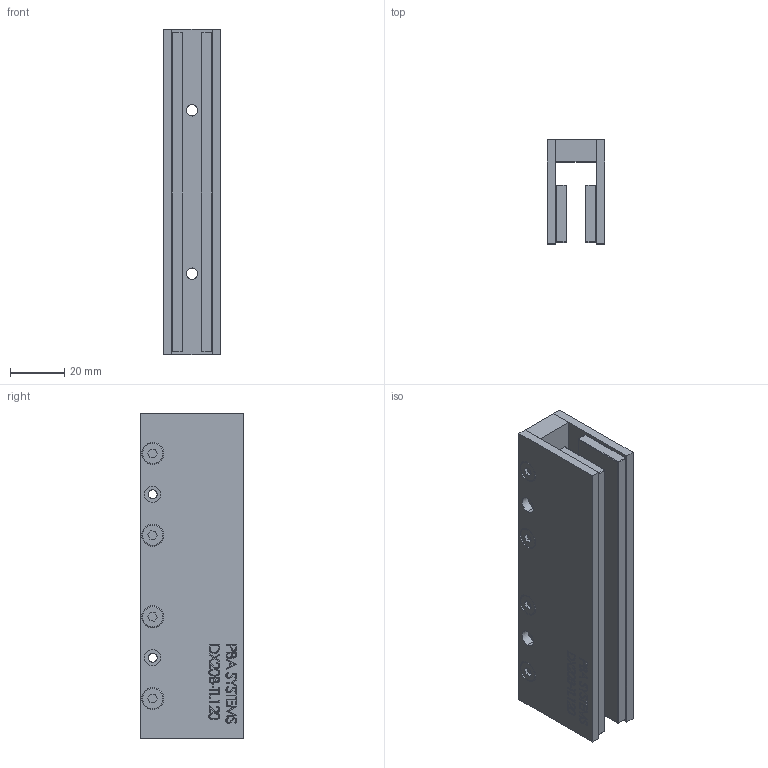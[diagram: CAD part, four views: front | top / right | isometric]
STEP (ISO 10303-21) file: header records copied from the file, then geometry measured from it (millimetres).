
FILE_DESCRIPTION (( 'STEP AP214' ), '1' );
FILE_NAME ('DX20B-TL120.STEP', '2016-05-11T08:34:49', ( '' ), ( '' ), 'SwSTEP 2.0', 'SolidWorks 2015', '' );
FILE_SCHEMA (( 'AUTOMOTIVE_DESIGN' ));
Length unit declared in the file: millimetre
Products named in the file (5): DX20B-0000-001_CUSTOMER_TL120; M4X8 BN1206; DX20B-TL120-002_TL120; DX20B-TL120-001_TL120; DX20B-TL120
Assembly tree (13 placements, depth 2):
  DX20B-TL120
    DX20B-TL120-001_TL120
    DX20B-TL120-002_TL120  x2
    M4X8 BN1206  x8
    DX20B-0000-001_CUSTOMER_TL120  x2
Bounding box: 21.15 x 38.1 x 119.7 mm (x, y, z)
Volume: 61938 mm3; surface area: 41090.8 mm2
Topology: 13 solids, 13 shells, 832 faces, 2102 edges, 1364 vertices
Faces by surface type: plane 456, bspline 212, cylinder 116, cone 16, torus 16, sphere 16
Entity records: 17805 total; most frequent: CARTESIAN_POINT 8752, ORIENTED_EDGE 1930, DIRECTION 1425, EDGE_CURVE 965, LINE 635, VECTOR 635, VERTEX_POINT 634, EDGE_LOOP 443
